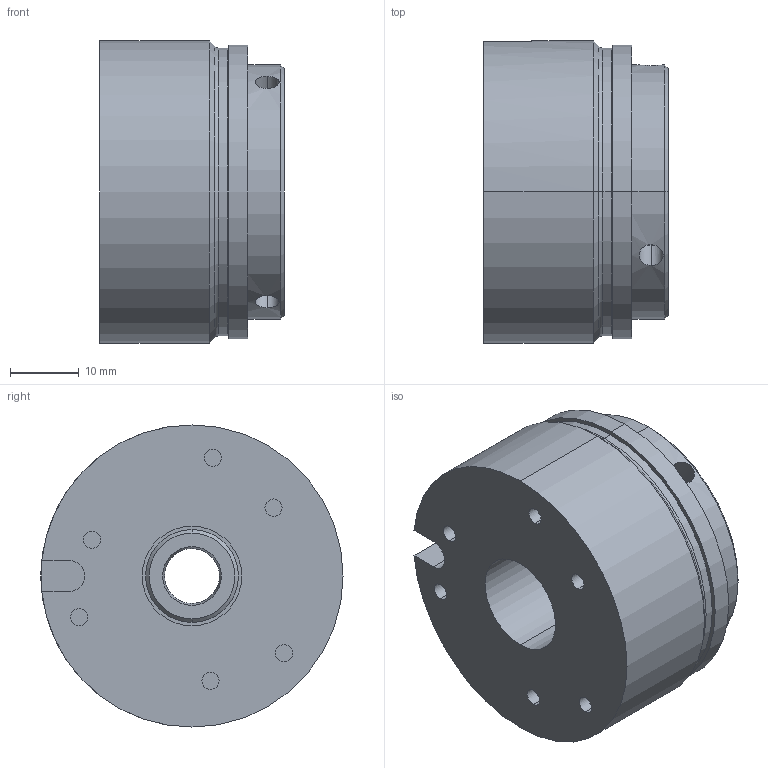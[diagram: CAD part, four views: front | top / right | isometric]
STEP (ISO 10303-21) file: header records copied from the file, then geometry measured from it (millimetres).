
FILE_DESCRIPTION (( 'STEP AP214' ), '1' );
FILE_NAME ('86_61104K00_Bohrung Ø8H7.STEP', '2019-05-17T08:28:01', ( '' ), ( '' ), 'SwSTEP 2.0', 'SolidWorks 2018', '' );
FILE_SCHEMA (( 'AUTOMOTIVE_DESIGN' ));
Length unit declared in the file: millimetre
Products named in the file (1): 86_61104K00_Bohrung Ø8H7
Bounding box: 26.85 x 44 x 44 mm (x, y, z)
Volume: 33610.2 mm3; surface area: 10832.3 mm2
Topology: 2 solids, 2 shells, 74 faces, 158 edges, 100 vertices
Faces by surface type: cylinder 41, plane 19, cone 10, torus 4
Entity records: 2541 total; most frequent: CARTESIAN_POINT 615, DIRECTION 384, ORIENTED_EDGE 316, AXIS2_PLACEMENT_3D 163, EDGE_CURVE 158, VERTEX_POINT 100, EDGE_LOOP 96, CIRCLE 88
